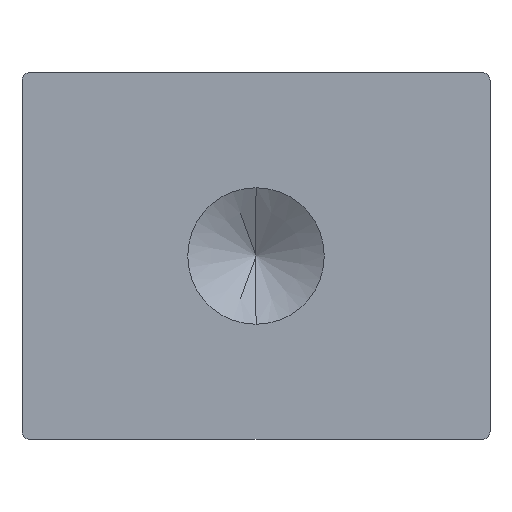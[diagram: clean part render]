
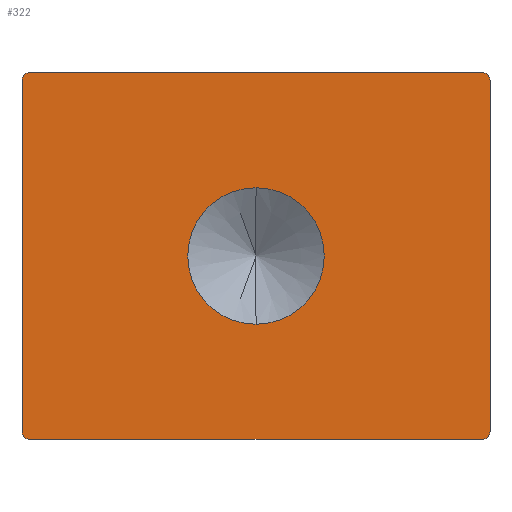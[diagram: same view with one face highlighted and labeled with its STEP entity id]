
A CAD part, front view. The second image highlights one B-rep face of the part: STEP entity #322.
In plain terms, the highlighted planar face has unit normal (0, -1, 0).
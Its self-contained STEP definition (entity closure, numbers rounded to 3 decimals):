
#14 = AXIS2_PLACEMENT_3D ( 'NONE', #1955, #560, #537 ) ;
#70 = ORIENTED_EDGE ( 'NONE', *, *, #944, .F. ) ;
#113 = CARTESIAN_POINT ( 'NONE',  ( -29., 0., -22.5 ) ) ;
#142 = CARTESIAN_POINT ( 'NONE',  ( 30., 0., 22.5 ) ) ;
#144 = DIRECTION ( 'NONE',  ( 0., 0., 1. ) ) ;
#214 = EDGE_CURVE ( 'NONE', #1907, #949, #1308, .T. ) ;
#244 = ORIENTED_EDGE ( 'NONE', *, *, #868, .F. ) ;
#290 = DIRECTION ( 'NONE',  ( 0., 0., 1. ) ) ;
#300 = CARTESIAN_POINT ( 'NONE',  ( 30., 0., 23.5 ) ) ;
#302 = CIRCLE ( 'NONE', #1189, 8.75 ) ;
#315 = ORIENTED_EDGE ( 'NONE', *, *, #752, .T. ) ;
#322 = ADVANCED_FACE ( 'NONE', ( #1468, #384 ), #1527, .F. ) ;
#364 = EDGE_CURVE ( 'NONE', #2197, #2104, #1657, .T. ) ;
#376 = DIRECTION ( 'NONE',  ( 0., -1., 0. ) ) ;
#384 = FACE_OUTER_BOUND ( 'NONE', #1781, .T. ) ;
#385 = CARTESIAN_POINT ( 'NONE',  ( 29., 0., -22.5 ) ) ;
#461 = DIRECTION ( 'NONE',  ( 0., -1., 0. ) ) ;
#477 = VERTEX_POINT ( 'NONE', #832 ) ;
#490 = CARTESIAN_POINT ( 'NONE',  ( 0., 0., 0. ) ) ;
#508 = EDGE_CURVE ( 'NONE', #2027, #585, #1512, .T. ) ;
#523 = CARTESIAN_POINT ( 'NONE',  ( -30., 0., 22.5 ) ) ;
#537 = DIRECTION ( 'NONE',  ( 0., 0., 1. ) ) ;
#560 = DIRECTION ( 'NONE',  ( 0., -1., 0. ) ) ;
#585 = VERTEX_POINT ( 'NONE', #1258 ) ;
#603 = CARTESIAN_POINT ( 'NONE',  ( -29., 0., -23.5 ) ) ;
#619 = DIRECTION ( 'NONE',  ( 0., -1., 0. ) ) ;
#623 = CIRCLE ( 'NONE', #1176, 1. ) ;
#634 = CARTESIAN_POINT ( 'NONE',  ( 0., 0., 0. ) ) ;
#682 = CARTESIAN_POINT ( 'NONE',  ( 30., 0., -22.5 ) ) ;
#752 = EDGE_CURVE ( 'NONE', #1907, #977, #921, .T. ) ;
#832 = CARTESIAN_POINT ( 'NONE',  ( 0., 0., -8.75 ) ) ;
#853 = DIRECTION ( 'NONE',  ( 0., 0., 1. ) ) ;
#868 = EDGE_CURVE ( 'NONE', #477, #1960, #302, .T. ) ;
#890 = AXIS2_PLACEMENT_3D ( 'NONE', #113, #619, #290 ) ;
#897 = VECTOR ( 'NONE', #1457, 1000. ) ;
#921 = CIRCLE ( 'NONE', #14, 1. ) ;
#929 = ORIENTED_EDGE ( 'NONE', *, *, #1139, .T. ) ;
#944 = EDGE_CURVE ( 'NONE', #1960, #477, #2052, .T. ) ;
#949 = VERTEX_POINT ( 'NONE', #1398 ) ;
#977 = VERTEX_POINT ( 'NONE', #523 ) ;
#984 = CARTESIAN_POINT ( 'NONE',  ( -30., 0., 23.5 ) ) ;
#1107 = AXIS2_PLACEMENT_3D ( 'NONE', #385, #376, #1612 ) ;
#1120 = CARTESIAN_POINT ( 'NONE',  ( -30., 0., 23.5 ) ) ;
#1130 = DIRECTION ( 'NONE',  ( 1., 0., 0. ) ) ;
#1138 = ORIENTED_EDGE ( 'NONE', *, *, #2025, .T. ) ;
#1139 = EDGE_CURVE ( 'NONE', #2136, #2027, #1491, .T. ) ;
#1153 = AXIS2_PLACEMENT_3D ( 'NONE', #490, #1905, #1729 ) ;
#1168 = ORIENTED_EDGE ( 'NONE', *, *, #508, .T. ) ;
#1176 = AXIS2_PLACEMENT_3D ( 'NONE', #1903, #2244, #853 ) ;
#1188 = CARTESIAN_POINT ( 'NONE',  ( -30., 0., -22.5 ) ) ;
#1189 = AXIS2_PLACEMENT_3D ( 'NONE', #634, #461, #2030 ) ;
#1190 = VECTOR ( 'NONE', #1556, 1000. ) ;
#1198 = DIRECTION ( 'NONE',  ( 0., 1., 0. ) ) ;
#1258 = CARTESIAN_POINT ( 'NONE',  ( 29., 0., -23.5 ) ) ;
#1308 = LINE ( 'NONE', #1120, #1515 ) ;
#1323 = ORIENTED_EDGE ( 'NONE', *, *, #1714, .T. ) ;
#1353 = CARTESIAN_POINT ( 'NONE',  ( 0., 0., 8.75 ) ) ;
#1398 = CARTESIAN_POINT ( 'NONE',  ( 29., 0., 23.5 ) ) ;
#1421 = CIRCLE ( 'NONE', #1107, 1. ) ;
#1441 = AXIS2_PLACEMENT_3D ( 'NONE', #2253, #1198, #144 ) ;
#1457 = DIRECTION ( 'NONE',  ( 1., 0., 0. ) ) ;
#1468 = FACE_BOUND ( 'NONE', #2209, .T. ) ;
#1491 = CIRCLE ( 'NONE', #890, 1. ) ;
#1512 = LINE ( 'NONE', #1630, #897 ) ;
#1515 = VECTOR ( 'NONE', #1130, 1000. ) ;
#1527 = PLANE ( 'NONE',  #1441 ) ;
#1556 = DIRECTION ( 'NONE',  ( 0., 0., -1. ) ) ;
#1612 = DIRECTION ( 'NONE',  ( 0., 0., 1. ) ) ;
#1630 = CARTESIAN_POINT ( 'NONE',  ( -30., 0., -23.5 ) ) ;
#1657 = LINE ( 'NONE', #300, #1190 ) ;
#1677 = ORIENTED_EDGE ( 'NONE', *, *, #214, .F. ) ;
#1695 = DIRECTION ( 'NONE',  ( 0., 0., -1. ) ) ;
#1714 = EDGE_CURVE ( 'NONE', #2197, #949, #623, .T. ) ;
#1729 = DIRECTION ( 'NONE',  ( 0., 0., -1. ) ) ;
#1781 = EDGE_LOOP ( 'NONE', ( #2231, #929, #1168, #1138, #1932, #1323, #1677, #315 ) ) ;
#1898 = VECTOR ( 'NONE', #1695, 1000. ) ;
#1903 = CARTESIAN_POINT ( 'NONE',  ( 29., 0., 22.5 ) ) ;
#1905 = DIRECTION ( 'NONE',  ( 0., -1., 0. ) ) ;
#1907 = VERTEX_POINT ( 'NONE', #2022 ) ;
#1932 = ORIENTED_EDGE ( 'NONE', *, *, #364, .F. ) ;
#1946 = EDGE_CURVE ( 'NONE', #977, #2136, #2103, .T. ) ;
#1955 = CARTESIAN_POINT ( 'NONE',  ( -29., 0., 22.5 ) ) ;
#1960 = VERTEX_POINT ( 'NONE', #1353 ) ;
#2022 = CARTESIAN_POINT ( 'NONE',  ( -29., 0., 23.5 ) ) ;
#2025 = EDGE_CURVE ( 'NONE', #585, #2104, #1421, .T. ) ;
#2027 = VERTEX_POINT ( 'NONE', #603 ) ;
#2030 = DIRECTION ( 'NONE',  ( 0., 0., -1. ) ) ;
#2052 = CIRCLE ( 'NONE', #1153, 8.75 ) ;
#2103 = LINE ( 'NONE', #984, #1898 ) ;
#2104 = VERTEX_POINT ( 'NONE', #682 ) ;
#2136 = VERTEX_POINT ( 'NONE', #1188 ) ;
#2197 = VERTEX_POINT ( 'NONE', #142 ) ;
#2209 = EDGE_LOOP ( 'NONE', ( #244, #70 ) ) ;
#2231 = ORIENTED_EDGE ( 'NONE', *, *, #1946, .T. ) ;
#2244 = DIRECTION ( 'NONE',  ( 0., -1., 0. ) ) ;
#2253 = CARTESIAN_POINT ( 'NONE',  ( -30., 0., 23.5 ) ) ;
